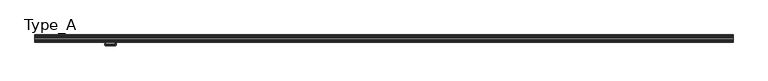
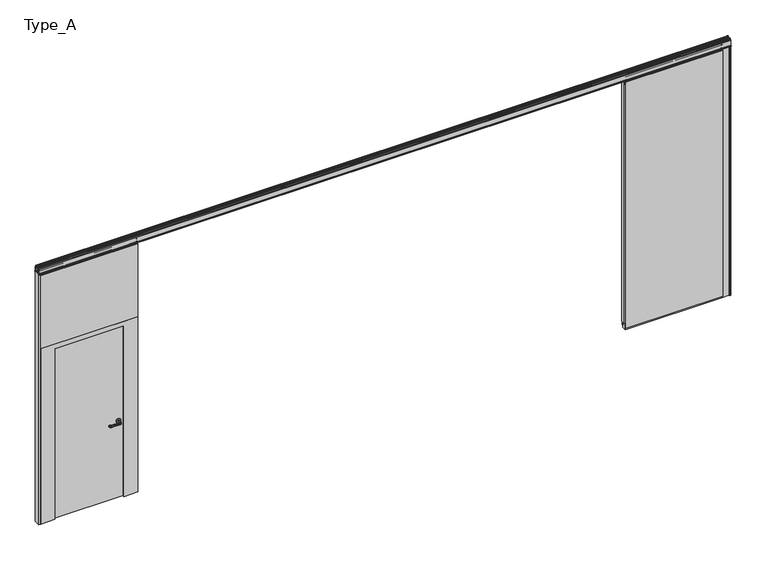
"""IFC4 building model written with IfcOpenShell, lengths in millimetres: proxy geometry, Planner Wall_ダブルガラス(Door) : Type_A."""

from ifc_helpers import new_model, si_unit, point, frame, frame_2d, origin, origin_with_axes, place, context, project, spatial, polyline, circle_curve, ellipse_curve, trimmed, segment, composite_curve, outline, extrude, faceted_brep, source, transform, mapped, element, save
from ifc_brep_helpers import plane_surface, cylinder_surface, revolved_surface, advanced_brep


def type_a_331d0887(model_context):
    return source(origin(), model_context, "Body", "SolidModel", [
        advanced_brep(
        [(907.9285714, -26.5, 910.0), (902.9285714, -26.5, 915.0), (902.9285714, -26.5, 925.0), (907.9285714, -26.5, 930.0), (911.9285714, -26.5, 930.0), (916.9285714, -26.5, 925.0), (916.9285714, -26.5, 915.0), (911.9285714, -26.5, 910.0), (911.9285714, -61.5, 910.0), (899.9285714, -73.5, 910.0), (799.9285714, -73.5, 910.0), (787.9285714, -61.5, 910.0), (787.9285714, -56.5, 910.0), (791.9285714, -56.5, 910.0), (791.9285714, -61.5, 910.0), (799.9285714, -69.5, 910.0), (899.9285714, -69.5, 910.0), (907.9285714, -61.5, 910.0), (916.9285714, -61.5, 915.0), (916.9285714, -61.5, 925.0), (911.9285714, -61.5, 930.0), (907.9285714, -61.5, 930.0), (899.9285714, -69.5, 930.0), (799.9285714, -69.5, 930.0), (791.9285714, -61.5, 930.0), (791.9285714, -56.5, 930.0), (787.9285714, -56.5, 930.0), (787.9285714, -61.5, 930.0), (799.9285714, -73.5, 930.0), (899.9285714, -73.5, 930.0), (902.9285714, -61.5, 925.0), (902.9285714, -61.5, 915.0), (899.9285714, -78.5, 915.0), (899.9285714, -78.5, 925.0), (899.9285714, -64.5, 925.0), (899.9285714, -64.5, 915.0), (799.9285714, -78.5, 915.0), (799.9285714, -78.5, 925.0), (799.9285714, -64.5, 925.0), (799.9285714, -64.5, 915.0), (782.9285714, -61.5, 915.0), (782.9285714, -61.5, 925.0), (796.9285714, -61.5, 925.0), (796.9285714, -61.5, 915.0), (782.9285714, -56.5, 915.0), (782.9285714, -56.5, 925.0), (796.9285714, -56.5, 925.0), (796.9285714, -56.5, 915.0)],
        [
            (0, 1, circle_curve(frame((907.9285714, -26.5, 915.0), z_axis=(0.0, 1.0, 0.0), x_axis=(-1.0, 0.0, 0.0)), 5.0)),
            (1, 2),
            (2, 3, circle_curve(frame((907.9285714, -26.5, 925.0), z_axis=(0.0, 1.0, 0.0), x_axis=(-1.0, 0.0, 0.0)), 5.0)),
            (3, 4),
            (4, 5, circle_curve(frame((911.9285714, -26.5, 925.0), z_axis=(0.0, 1.0, 0.0), x_axis=(-1.0, 0.0, 0.0)), 5.0)),
            (5, 6),
            (6, 7, circle_curve(frame((911.9285714, -26.5, 915.0), z_axis=(0.0, 1.0, 0.0), x_axis=(-1.0, 0.0, 0.0)), 5.0)),
            (7, 0),
            (7, 8),
            (8, 9, circle_curve(frame((899.9285714, -61.5, 910.0), z_axis=(0.0, 0.0, -1.0), x_axis=(1.0, 0.0, 0.0)), 12.0)),
            (9, 10),
            (10, 11, circle_curve(frame((799.9285714, -61.5, 910.0), z_axis=(0.0, 0.0, -1.0), x_axis=(0.0, -1.0, 0.0)), 12.0)),
            (11, 12),
            (12, 13),
            (13, 14),
            (14, 15, circle_curve(frame((799.9285714, -61.5, 910.0), z_axis=(0.0, 0.0, 1.0), x_axis=(0.0, -1.0, 0.0)), 8.0)),
            (15, 16),
            (16, 17, circle_curve(frame((899.9285714, -61.5, 910.0), z_axis=(0.0, 0.0, 1.0), x_axis=(1.0, 0.0, 0.0)), 8.0)),
            (17, 0),
            (6, 18),
            (18, 8, circle_curve(frame((911.9285714, -61.5, 915.0), z_axis=(0.0, 1.0, 0.0), x_axis=(-1.0, 0.0, 0.0)), 5.0)),
            (5, 19),
            (19, 18),
            (4, 20),
            (20, 19, circle_curve(frame((911.9285714, -61.5, 925.0), z_axis=(0.0, 1.0, 0.0), x_axis=(-1.0, 0.0, 0.0)), 5.0)),
            (3, 21),
            (21, 22, circle_curve(frame((899.9285714, -61.5, 930.0), z_axis=(0.0, 0.0, -1.0), x_axis=(1.0, 0.0, 0.0)), 8.0)),
            (22, 23),
            (23, 24, circle_curve(frame((799.9285714, -61.5, 930.0), z_axis=(0.0, 0.0, -1.0), x_axis=(0.0, -1.0, 0.0)), 8.0)),
            (24, 25),
            (25, 26),
            (26, 27),
            (27, 28, circle_curve(frame((799.9285714, -61.5, 930.0), z_axis=(0.0, 0.0, 1.0), x_axis=(0.0, -1.0, 0.0)), 12.0)),
            (28, 29),
            (29, 20, circle_curve(frame((899.9285714, -61.5, 930.0), z_axis=(0.0, 0.0, 1.0), x_axis=(1.0, 0.0, 0.0)), 12.0)),
            (2, 30),
            (30, 21, circle_curve(frame((907.9285714, -61.5, 925.0), z_axis=(0.0, 1.0, 0.0), x_axis=(-1.0, 0.0, 0.0)), 5.0)),
            (1, 31),
            (31, 30),
            (17, 31, circle_curve(frame((907.9285714, -61.5, 915.0), z_axis=(0.0, 1.0, 0.0), x_axis=(-1.0, 0.0, 0.0)), 5.0)),
            (32, 9, circle_curve(frame((899.9285714, -73.5, 915.0), z_axis=(1.0, 0.0, 0.0), x_axis=(0.0, 1.0, 0.0)), 5.0)),
            (18, 32, circle_curve(frame((899.9285714, -61.5, 915.0), z_axis=(0.0, 0.0, -1.0), x_axis=(1.0, 0.0, 0.0)), 17.0)),
            (33, 32),
            (19, 33, circle_curve(frame((899.9285714, -61.5, 925.0), z_axis=(0.0, 0.0, -1.0), x_axis=(1.0, 0.0, 0.0)), 17.0)),
            (29, 33, circle_curve(frame((899.9285714, -73.5, 925.0), z_axis=(1.0, 0.0, 0.0), x_axis=(0.0, 1.0, 0.0)), 5.0)),
            (34, 22, circle_curve(frame((899.9285714, -69.5, 925.0), z_axis=(1.0, 0.0, 0.0), x_axis=(0.0, 1.0, 0.0)), 5.0)),
            (30, 34, circle_curve(frame((899.9285714, -61.5, 925.0), z_axis=(0.0, 0.0, -1.0), x_axis=(1.0, 0.0, 0.0)), 3.0)),
            (35, 34),
            (31, 35, circle_curve(frame((899.9285714, -61.5, 915.0), z_axis=(0.0, 0.0, -1.0), x_axis=(1.0, 0.0, 0.0)), 3.0)),
            (16, 35, circle_curve(frame((899.9285714, -69.5, 915.0), z_axis=(1.0, 0.0, 0.0), x_axis=(0.0, 1.0, 0.0)), 5.0)),
            (32, 36),
            (36, 10, circle_curve(frame((799.9285714, -73.5, 915.0), z_axis=(1.0, 0.0, 0.0), x_axis=(0.0, 1.0, 0.0)), 5.0)),
            (33, 37),
            (37, 36),
            (28, 37, circle_curve(frame((799.9285714, -73.5, 925.0), z_axis=(1.0, 0.0, 0.0), x_axis=(0.0, 1.0, 0.0)), 5.0)),
            (34, 38),
            (38, 23, circle_curve(frame((799.9285714, -69.5, 925.0), z_axis=(1.0, 0.0, 0.0), x_axis=(0.0, 1.0, 0.0)), 5.0)),
            (35, 39),
            (39, 38),
            (15, 39, circle_curve(frame((799.9285714, -69.5, 915.0), z_axis=(1.0, 0.0, 0.0), x_axis=(0.0, 1.0, 0.0)), 5.0)),
            (40, 11, circle_curve(frame((787.9285714, -61.5, 915.0), z_axis=(0.0, -1.0, 0.0), x_axis=(1.0, 0.0, 0.0)), 5.0)),
            (36, 40, circle_curve(frame((799.9285714, -61.5, 915.0), z_axis=(0.0, 0.0, -1.0), x_axis=(0.0, -1.0, 0.0)), 17.0)),
            (41, 40),
            (37, 41, circle_curve(frame((799.9285714, -61.5, 925.0), z_axis=(0.0, 0.0, -1.0), x_axis=(0.0, -1.0, 0.0)), 17.0)),
            (27, 41, circle_curve(frame((787.9285714, -61.5, 925.0), z_axis=(0.0, -1.0, 0.0), x_axis=(1.0, 0.0, 0.0)), 5.0)),
            (42, 24, circle_curve(frame((791.9285714, -61.5, 925.0), z_axis=(0.0, -1.0, 0.0), x_axis=(1.0, 0.0, 0.0)), 5.0)),
            (38, 42, circle_curve(frame((799.9285714, -61.5, 925.0), z_axis=(0.0, 0.0, -1.0), x_axis=(0.0, -1.0, 0.0)), 3.0)),
            (43, 42),
            (39, 43, circle_curve(frame((799.9285714, -61.5, 915.0), z_axis=(0.0, 0.0, -1.0), x_axis=(0.0, -1.0, 0.0)), 3.0)),
            (14, 43, circle_curve(frame((791.9285714, -61.5, 915.0), z_axis=(0.0, -1.0, 0.0), x_axis=(1.0, 0.0, 0.0)), 5.0)),
            (12, 44, circle_curve(frame((787.9285714, -56.5, 915.0), z_axis=(0.0, 1.0, 0.0), x_axis=(1.0, 0.0, 0.0)), 5.0)),
            (44, 45),
            (45, 26, circle_curve(frame((787.9285714, -56.5, 925.0), z_axis=(0.0, 1.0, 0.0), x_axis=(1.0, 0.0, 0.0)), 5.0)),
            (25, 46, circle_curve(frame((791.9285714, -56.5, 925.0), z_axis=(0.0, 1.0, 0.0), x_axis=(1.0, 0.0, 0.0)), 5.0)),
            (46, 47),
            (47, 13, circle_curve(frame((791.9285714, -56.5, 915.0), z_axis=(0.0, 1.0, 0.0), x_axis=(1.0, 0.0, 0.0)), 5.0)),
            (40, 44),
            (41, 45),
            (42, 46),
            (43, 47),
        ],
        [
            plane_surface(frame((920.1266105, -26.5, 920.0), z_axis=(0.0, 1.0, 0.0), x_axis=(0.0, 0.0, -1.0))),
            plane_surface(frame((907.9285714, -26.5, 910.0), z_axis=(0.0, 0.0, -1.0), x_axis=(0.0, -1.0, 0.0))),
            cylinder_surface(frame((911.9285714, -26.5, 915.0), z_axis=(0.0, 1.0, 0.0), x_axis=(-1.0, 0.0, 0.0)), 5.0),
            plane_surface(frame((916.9285714, -26.5, 915.0), z_axis=(1.0, 0.0, 0.0), x_axis=(0.0, -1.0, 0.0))),
            cylinder_surface(frame((911.9285714, -26.5, 925.0), z_axis=(0.0, 1.0, 0.0), x_axis=(-1.0, 0.0, 0.0)), 5.0),
            plane_surface(frame((911.9285714, -26.5, 930.0), z_axis=(0.0, 0.0, 1.0), x_axis=(0.0, -1.0, 0.0))),
            cylinder_surface(frame((907.9285714, -26.5, 925.0), z_axis=(0.0, 1.0, 0.0), x_axis=(-1.0, 0.0, 0.0)), 5.0),
            plane_surface(frame((902.9285714, -26.5, 925.0), z_axis=(-1.0, 0.0, 0.0), x_axis=(0.0, -1.0, 0.0))),
            cylinder_surface(frame((907.9285714, -26.5, 915.0), z_axis=(0.0, 1.0, 0.0), x_axis=(-1.0, 0.0, 0.0)), 5.0),
            revolved_surface(trimmed(ellipse_curve(frame((911.9285714, -61.5, 915.0), z_axis=(0.0, -1.0, 0.0), x_axis=(-1.0, 0.0, 0.0)), 5.0, 5.0), [point((911.9285714, -61.5, 910.0))], [point((916.9285714, -61.5, 915.0))], True, "CARTESIAN"), (899.9285714, -61.5, 920.0), (0.0, 0.0, 1.0)),
            cylinder_surface(frame((899.9285714, -61.5, 920.0), z_axis=(0.0, 0.0, 1.0), x_axis=(1.0, 0.0, 0.0)), 17.0),
            revolved_surface(trimmed(ellipse_curve(frame((911.9285714, -61.5, 925.0), z_axis=(0.0, -1.0, 0.0), x_axis=(-1.0, 0.0, 0.0)), 5.0, 5.0), [point((916.9285714, -61.5, 925.0))], [point((911.9285714, -61.5, 930.0))], True, "CARTESIAN"), (899.9285714, -61.5, 920.0), (0.0, 0.0, 1.0)),
            revolved_surface(trimmed(ellipse_curve(frame((907.9285714, -61.5, 925.0), z_axis=(0.0, -1.0, 0.0), x_axis=(-1.0, 0.0, 0.0)), 5.0, 5.0), [point((907.9285714, -61.5, 930.0))], [point((902.9285714, -61.5, 925.0))], True, "CARTESIAN"), (899.9285714, -61.5, 920.0), (0.0, 0.0, 1.0)),
            revolved_surface(polyline([(902.9285714, -61.5, 925.0), (902.9285714, -61.5, 915.0)]), (899.9285714, -61.5, 920.0), (0.0, 0.0, 1.0)),
            revolved_surface(trimmed(ellipse_curve(frame((907.9285714, -61.5, 915.0), z_axis=(0.0, -1.0, 0.0), x_axis=(-1.0, 0.0, 0.0)), 5.0, 5.0), [point((902.9285714, -61.5, 915.0))], [point((907.9285714, -61.5, 910.0))], True, "CARTESIAN"), (899.9285714, -61.5, 920.0), (0.0, 0.0, 1.0)),
            cylinder_surface(frame((899.9285714, -73.5, 915.0), z_axis=(1.0, 0.0, 0.0), x_axis=(0.0, 1.0, 0.0)), 5.0),
            plane_surface(frame((899.9285714, -78.5, 915.0), z_axis=(0.0, -1.0, 0.0), x_axis=(-1.0, 0.0, 0.0))),
            cylinder_surface(frame((899.9285714, -73.5, 925.0), z_axis=(1.0, 0.0, 0.0), x_axis=(0.0, 1.0, 0.0)), 5.0),
            cylinder_surface(frame((899.9285714, -69.5, 925.0), z_axis=(1.0, 0.0, 0.0), x_axis=(0.0, 1.0, 0.0)), 5.0),
            plane_surface(frame((899.9285714, -64.5, 925.0), z_axis=(0.0, 1.0, 0.0), x_axis=(-1.0, 0.0, 0.0))),
            cylinder_surface(frame((899.9285714, -69.5, 915.0), z_axis=(1.0, 0.0, 0.0), x_axis=(0.0, 1.0, 0.0)), 5.0),
            revolved_surface(trimmed(ellipse_curve(frame((799.9285714, -73.5, 915.0), z_axis=(-1.0, 0.0, 0.0), x_axis=(0.0, 1.0, 0.0)), 5.0, 5.0), [point((799.9285714, -73.5, 910.0))], [point((799.9285714, -78.5, 915.0))], True, "CARTESIAN"), (799.9285714, -61.5, 920.0), (0.0, 0.0, 1.0)),
            cylinder_surface(frame((799.9285714, -61.5, 920.0), z_axis=(0.0, 0.0, 1.0), x_axis=(0.0, -1.0, 0.0)), 17.0),
            revolved_surface(trimmed(ellipse_curve(frame((799.9285714, -73.5, 925.0), z_axis=(-1.0, 0.0, 0.0), x_axis=(0.0, 1.0, 0.0)), 5.0, 5.0), [point((799.9285714, -78.5, 925.0))], [point((799.9285714, -73.5, 930.0))], True, "CARTESIAN"), (799.9285714, -61.5, 920.0), (0.0, 0.0, 1.0)),
            revolved_surface(trimmed(ellipse_curve(frame((799.9285714, -69.5, 925.0), z_axis=(-1.0, 0.0, 0.0), x_axis=(0.0, 1.0, 0.0)), 5.0, 5.0), [point((799.9285714, -69.5, 930.0))], [point((799.9285714, -64.5, 925.0))], True, "CARTESIAN"), (799.9285714, -61.5, 920.0), (0.0, 0.0, 1.0)),
            revolved_surface(polyline([(799.9285714, -64.5, 925.0), (799.9285714, -64.5, 915.0)]), (799.9285714, -61.5, 920.0), (0.0, 0.0, 1.0)),
            revolved_surface(trimmed(ellipse_curve(frame((799.9285714, -69.5, 915.0), z_axis=(-1.0, 0.0, 0.0), x_axis=(0.0, 1.0, 0.0)), 5.0, 5.0), [point((799.9285714, -64.5, 915.0))], [point((799.9285714, -69.5, 910.0))], True, "CARTESIAN"), (799.9285714, -61.5, 920.0), (0.0, 0.0, 1.0)),
            plane_surface(frame((800.1266105, -56.5, 920.0), z_axis=(0.0, 1.0, 0.0), x_axis=(0.0, 0.0, 1.0))),
            cylinder_surface(frame((787.9285714, -61.5, 915.0), z_axis=(0.0, -1.0, 0.0), x_axis=(1.0, 0.0, 0.0)), 5.0),
            plane_surface(frame((782.9285714, -61.5, 915.0), z_axis=(-1.0, 0.0, 0.0), x_axis=(0.0, 1.0, 0.0))),
            cylinder_surface(frame((787.9285714, -61.5, 925.0), z_axis=(0.0, -1.0, 0.0), x_axis=(1.0, 0.0, 0.0)), 5.0),
            cylinder_surface(frame((791.9285714, -61.5, 925.0), z_axis=(0.0, -1.0, 0.0), x_axis=(1.0, 0.0, 0.0)), 5.0),
            plane_surface(frame((796.9285714, -61.5, 925.0), z_axis=(1.0, 0.0, 0.0), x_axis=(0.0, 1.0, 0.0))),
            cylinder_surface(frame((791.9285714, -61.5, 915.0), z_axis=(0.0, -1.0, 0.0), x_axis=(1.0, 0.0, 0.0)), 5.0),
        ],
        [
            (0, [[1, 2, 3, 4, 5, 6, 7, 8]]),
            (1, [[9, 10, 11, 12, 13, 14, 15, 16, 17, 18, 19, -8]]),
            (2, [[20, 21, -9, -7]]),
            (3, [[22, 23, -20, -6]]),
            (4, [[24, 25, -22, -5]]),
            (5, [[26, 27, 28, 29, 30, 31, 32, 33, 34, 35, -24, -4]]),
            (6, [[36, 37, -26, -3]]),
            (7, [[38, 39, -36, -2]]),
            (8, [[-19, 40, -38, -1]]),
            (9, [[41, -10, -21, 42]]),
            (10, [[43, -42, -23, 44]]),
            (11, [[45, -44, -25, -35]]),
            (12, [[46, -27, -37, 47]]),
            (13, [[48, -47, -39, 49]]),
            (14, [[50, -49, -40, -18]]),
            (15, [[51, 52, -11, -41]]),
            (16, [[53, 54, -51, -43]]),
            (17, [[-34, 55, -53, -45]]),
            (18, [[56, 57, -28, -46]]),
            (19, [[58, 59, -56, -48]]),
            (20, [[-17, 60, -58, -50]]),
            (21, [[61, -12, -52, 62]]),
            (22, [[63, -62, -54, 64]]),
            (23, [[65, -64, -55, -33]]),
            (24, [[66, -29, -57, 67]]),
            (25, [[68, -67, -59, 69]]),
            (26, [[70, -69, -60, -16]]),
            (27, [[-14, 71, 72, 73, -31, 74, 75, 76]]),
            (28, [[77, -71, -13, -61]]),
            (29, [[78, -72, -77, -63]]),
            (30, [[-32, -73, -78, -65]]),
            (31, [[79, -74, -30, -66]]),
            (32, [[80, -75, -79, -68]]),
            (33, [[-15, -76, -80, -70]]),
        ],
    ),
        extrude(outline(composite_curve([segment(trimmed(circle_curve(frame_2d((920.0, 909.9285714)), 25.0), [point((920.0, 934.9285714))], [point((920.0, 884.9285714))], False, "CARTESIAN"), True, "CONTINUOUS"), segment(trimmed(circle_curve(frame_2d((920.0, 909.9285714)), 25.0), [point((920.0, 884.9285714))], [point((920.0, 934.9285714))], False, "CARTESIAN"), True, "CONTINUOUS")], self_intersect=False)), frame((0.0, 23.5, 0.0), z_axis=(0.0, 1.0, 0.0), x_axis=(0.0, 0.0, 1.0)), (0.0, 0.0, 1.0), 10.0),
        extrude(outline(composite_curve([segment(trimmed(circle_curve(frame_2d((920.0, 909.9285714)), 25.0), [point((920.0, 934.9285714))], [point((920.0, 884.9285714))], False, "CARTESIAN"), True, "CONTINUOUS"), segment(trimmed(circle_curve(frame_2d((920.0, 909.9285714)), 25.0), [point((920.0, 884.9285714))], [point((920.0, 934.9285714))], False, "CARTESIAN"), True, "CONTINUOUS")], self_intersect=False)), frame((0.0, -26.5, 0.0), z_axis=(0.0, 1.0, 0.0), x_axis=(0.0, 0.0, 1.0)), (0.0, 0.0, 1.0), 10.0),
        extrude(outline(polyline([(973.9285714, -16.5), (166.5, -16.5), (166.5, 23.5), (973.9285714, 23.5), (973.9285714, -16.5)])), origin_with_axes(), (0.0, 0.0, 1.0), 2062.0),
        faceted_brep([(21.5, -35.0, 0.0), (21.5, 35.0, 0.0), (154.0, 35.0, 0.0), (154.0, 26.0, 0.0), (162.5, 26.0, 0.0), (162.5, -20.5, 0.0), (177.5, -20.5, 0.0), (177.5, -35.0, 0.0), (987.4285714, 35.0, 0.0), (1119.9285714, 35.0, 0.0), (1119.9285714, 25.0, 0.0), (1114.4285714, 25.0, 0.0), (1114.4285714, -25.0, 0.0), (1119.9285714, -25.0, 0.0), (1119.9285714, -35.0, 0.0), (963.9285714, -35.0, 0.0), (963.9285714, -20.5, 0.0), (978.9285714, -20.5, 0.0), (978.9285714, 26.0, 0.0), (987.4285714, 26.0, 0.0), (21.5, 35.0, 2100.0), (21.5, -35.0, 2100.0), (1119.9285714, -35.0, 2100.0), (1119.9285714, -25.0, 2100.0), (1114.4285714, -25.0, 2100.0), (1114.4285714, 25.0, 2100.0), (1119.9285714, 25.0, 2100.0), (1119.9285714, 35.0, 2100.0), (177.5, -20.5, 2100.0), (162.5, -20.5, 2100.0), (162.5, 25.0, 2100.0), (978.9285714, 25.0, 2100.0), (978.9285714, -20.5, 2100.0), (963.9285714, -20.5, 2100.0), (963.9285714, -25.0, 2100.0), (177.5, -25.0, 2100.0), (987.4285714, 35.0, 2066.0), (154.0, 35.0, 2066.0), (154.0, 26.0, 2066.0), (162.5, 26.0, 2066.0), (162.5, 25.0, 2066.0), (177.5, -25.0, 2046.0), (177.5, -35.0, 2046.0), (963.9285714, -35.0, 2046.0), (963.9285714, -25.0, 2046.0), (978.9285714, 25.0, 2066.0), (978.9285714, 26.0, 2066.0), (987.4285714, 26.0, 2066.0)], [[[0, 1, 2, 3, 4, 5, 6, 7]], [[8, 9, 10, 11, 12, 13, 14, 15, 16, 17, 18, 19]], [[20, 21, 22, 23, 24, 25, 26, 27], [28, 29, 30, 31, 32, 33, 34, 35]], [[1, 0, 21, 20]], [[2, 1, 20, 27, 9, 8, 36, 37]], [[3, 2, 37, 38]], [[4, 3, 38, 39]], [[5, 4, 39, 40, 30, 29]], [[6, 5, 29, 28]], [[7, 6, 28, 35, 41, 42]], [[0, 7, 42, 43, 15, 14, 22, 21]], [[10, 9, 27, 26]], [[11, 10, 26, 25]], [[12, 11, 25, 24]], [[13, 12, 24, 23]], [[14, 13, 23, 22]], [[16, 15, 43, 44, 34, 33]], [[17, 16, 33, 32]], [[18, 17, 32, 31, 45, 46]], [[19, 18, 46, 47]], [[8, 19, 47, 36]], [[43, 42, 41, 44]], [[35, 34, 44, 41]], [[31, 30, 40, 45]], [[37, 36, 47, 46, 45, 40, 39, 38]]]),
        extrude(outline(composite_curve([segment(polyline([(23.5, 3050.1000003), (26.5, 3047.1000003), (26.5, 3032.6)]), True, "CONTINUOUS"), segment(trimmed(circle_curve(frame_2d((25.0, 3032.6)), 1.5), [point((26.5, 3032.6))], [point((25.0, 3031.1))], False, "CARTESIAN"), True, "CONTINUOUS"), segment(polyline([(25.0, 3031.1), (9.0, 3031.1), (9.0, 3019.1000003), (23.5, 3019.1000003), (26.5, 3016.1000003), (26.5, 3001.5)]), True, "CONTINUOUS"), segment(trimmed(circle_curve(frame_2d((25.0, 3001.5)), 1.5), [point((26.5, 3001.5))], [point((25.0, 3000.0))], False, "CARTESIAN"), True, "CONTINUOUS"), segment(polyline([(25.0, 3000.0), (7.5, 3000.0), (7.5, 2994.5), (25.0, 2994.5), (25.0, 2935.0), (-25.0, 2935.0), (-25.0, 2994.5), (-7.5, 2994.5), (-7.5, 3000.0), (-25.0, 3000.0)]), True, "CONTINUOUS"), segment(trimmed(circle_curve(frame_2d((-25.0, 3001.5)), 1.5), [point((-25.0, 3000.0))], [point((-26.5, 3001.5))], False, "CARTESIAN"), True, "CONTINUOUS"), segment(polyline([(-26.5, 3001.5), (-26.5, 3016.1000003), (-23.5, 3019.1000003), (-9.0, 3019.1000003), (-9.0, 3031.1), (-25.0, 3031.1)]), True, "CONTINUOUS"), segment(trimmed(circle_curve(frame_2d((-25.0, 3032.6)), 1.5), [point((-25.0, 3031.1))], [point((-26.5, 3032.6))], False, "CARTESIAN"), True, "CONTINUOUS"), segment(polyline([(-26.5, 3032.6), (-26.5, 3047.1000003), (-23.5, 3050.1000003), (23.5, 3050.1000003)]), True, "CONTINUOUS")], self_intersect=False)), frame((21.5, 0.0, 0.0), z_axis=(1.0, 0.0, 0.0), x_axis=(0.0, 1.0, 0.0)), (0.0, 0.0, 1.0), 1098.4285714),
        extrude(outline(polyline([(1119.9285714, 24.9), (21.5, 24.9), (21.5, 35.0), (1119.9285714, 35.0), (1119.9285714, 24.9)])), frame((0.0, 0.0, 2100.0), z_axis=(0.0, 0.0, 1.0), x_axis=(1.0, 0.0, 0.0)), (0.0, 0.0, 1.0), 875.0),
        extrude(outline(polyline([(1119.9285714, -35.0), (21.5, -35.0), (21.5, -24.9), (1119.9285714, -24.9), (1119.9285714, -35.0)])), frame((0.0, 0.0, 2100.0), z_axis=(0.0, 0.0, 1.0), x_axis=(1.0, 0.0, 0.0)), (0.0, 0.0, 1.0), 875.0),
        extrude(outline(polyline([(8.0, -25.0), (8.0, 25.0), (21.5, 25.0), (21.5, -25.0), (8.0, -25.0)])), frame((0.0, 0.0, 53.0), z_axis=(0.0, 0.0, 1.0), x_axis=(1.0, 0.0, 0.0)), (0.0, 0.0, 1.0), 2869.0),
        extrude(outline(polyline([(6660.0714286, -25.0), (6660.0714286, 25.0), (7753.0, 25.0), (7753.0, -25.0), (6660.0714286, -25.0)])), origin_with_axes(), (0.0, 0.0, 1.0), 65.0),
        extrude(outline(polyline([(7753.0, -19.5), (7753.0, 19.5), (7835.5, 19.5), (7835.5, 25.0), (7842.0, 25.0), (7842.0, -25.0), (7835.5, -25.0), (7835.5, -19.5), (7753.0, -19.5)])), origin_with_axes(), (0.0, 0.0, 1.0), 2994.0),
        extrude(outline(composite_curve([segment(polyline([(23.5, 3050.1000003), (26.5, 3047.1000003), (26.5, 3032.6)]), True, "CONTINUOUS"), segment(trimmed(circle_curve(frame_2d((25.0, 3032.6)), 1.5), [point((26.5, 3032.6))], [point((25.0, 3031.1))], False, "CARTESIAN"), True, "CONTINUOUS"), segment(polyline([(25.0, 3031.1), (9.0, 3031.1), (9.0, 3019.1000003), (23.5, 3019.1000003), (26.5, 3016.1000003), (26.5, 3001.5)]), True, "CONTINUOUS"), segment(trimmed(circle_curve(frame_2d((25.0, 3001.5)), 1.5), [point((26.5, 3001.5))], [point((25.0, 3000.0))], False, "CARTESIAN"), True, "CONTINUOUS"), segment(polyline([(25.0, 3000.0), (7.5, 3000.0), (7.5, 2994.5), (25.0, 2994.5), (25.0, 2935.0), (-25.0, 2935.0), (-25.0, 2994.5), (-7.5, 2994.5), (-7.5, 3000.0), (-25.0, 3000.0)]), True, "CONTINUOUS"), segment(trimmed(circle_curve(frame_2d((-25.0, 3001.5)), 1.5), [point((-25.0, 3000.0))], [point((-26.5, 3001.5))], False, "CARTESIAN"), True, "CONTINUOUS"), segment(polyline([(-26.5, 3001.5), (-26.5, 3016.1000003), (-23.5, 3019.1000003), (-9.0, 3019.1000003), (-9.0, 3031.1), (-25.0, 3031.1)]), True, "CONTINUOUS"), segment(trimmed(circle_curve(frame_2d((-25.0, 3032.6)), 1.5), [point((-25.0, 3031.1))], [point((-26.5, 3032.6))], False, "CARTESIAN"), True, "CONTINUOUS"), segment(polyline([(-26.5, 3032.6), (-26.5, 3047.1000003), (-23.5, 3050.1000003), (23.5, 3050.1000003)]), True, "CONTINUOUS")], self_intersect=False)), frame((6660.0714286, 0.0, 0.0), z_axis=(1.0, 0.0, 0.0), x_axis=(0.0, 1.0, 0.0)), (0.0, 0.0, 1.0), 1098.4285714),
        extrude(outline(polyline([(7758.5, 24.9), (6660.0714286, 24.9), (6660.0714286, 35.0), (7758.5, 35.0), (7758.5, 24.9)])), frame((0.0, 0.0, 25.0), z_axis=(0.0, 0.0, 1.0), x_axis=(1.0, 0.0, 0.0)), (0.0, 0.0, 1.0), 2950.0),
        extrude(outline(polyline([(7758.5, -35.0), (6660.0714286, -35.0), (6660.0714286, -24.9), (7758.5, -24.9), (7758.5, -35.0)])), frame((0.0, 0.0, 25.0), z_axis=(0.0, 0.0, 1.0), x_axis=(1.0, 0.0, 0.0)), (0.0, 0.0, 1.0), 2950.0),
        extrude(outline(polyline([(6646.5714286, -25.0), (6646.5714286, 25.0), (6660.0714286, 25.0), (6660.0714286, -25.0), (6646.5714286, -25.0)])), frame((0.0, 0.0, 78.0), z_axis=(0.0, 0.0, 1.0), x_axis=(1.0, 0.0, 0.0)), (0.0, 0.0, 1.0), 2897.0),
        extrude(outline(polyline([(0.0, -35.0), (0.0, 35.0), (13.5, 35.0), (13.5, 25.0), (8.0, 25.0), (8.0, -25.0), (13.5, -25.0), (13.5, -35.0), (0.0, -35.0)])), origin_with_axes(), (0.0, 0.0, 1.0), 2994.0),
        extrude(outline(composite_curve([segment(trimmed(circle_curve(frame_2d((-26.5, 3056.0)), 5.0), [point((-31.5, 3056.0))], [point((-26.1165175, 3060.9852724))], False, "CARTESIAN"), True, "CONTINUOUS"), segment(polyline([(-26.1165175, 3060.9852724), (-24.5, 3060.9852724), (-24.5, 3075.0)]), True, "CONTINUOUS"), segment(trimmed(circle_curve(frame_2d((-21.5, 3075.0)), 3.0), [point((-24.5, 3075.0))], [point((-21.5, 3078.0))], False, "CARTESIAN"), True, "CONTINUOUS"), segment(polyline([(-21.5, 3078.0), (-14.0, 3078.0)]), True, "CONTINUOUS"), segment(trimmed(circle_curve(frame_2d((-14.0, 3076.5)), 1.5), [point((-14.0, 3078.0))], [point((-12.5, 3076.5))], False, "CARTESIAN"), True, "CONTINUOUS"), segment(polyline([(-12.5, 3076.5), (-12.5, 3074.5)]), True, "CONTINUOUS"), segment(trimmed(circle_curve(frame_2d((-13.0, 3074.5)), 0.5), [point((-12.5, 3074.5))], [point((-13.0, 3074.0))], False, "CARTESIAN"), True, "CONTINUOUS"), segment(polyline([(-13.0, 3074.0), (-19.0, 3074.0)]), True, "CONTINUOUS"), segment(trimmed(circle_curve(frame_2d((-19.0, 3072.5)), 1.5), [point((-19.0, 3074.0))], [point((-20.5, 3072.5))], True, "CARTESIAN"), True, "CONTINUOUS"), segment(polyline([(-20.5, 3072.5), (-20.5, 3062.5)]), True, "CONTINUOUS"), segment(trimmed(circle_curve(frame_2d((-19.0, 3062.5)), 1.5), [point((-20.5, 3062.5))], [point((-19.0, 3061.0))], True, "CARTESIAN"), True, "CONTINUOUS"), segment(polyline([(-19.0, 3061.0), (19.0, 3061.0)]), True, "CONTINUOUS"), segment(trimmed(circle_curve(frame_2d((19.0, 3062.5)), 1.5), [point((19.0, 3061.0))], [point((20.5, 3062.5))], True, "CARTESIAN"), True, "CONTINUOUS"), segment(polyline([(20.5, 3062.5), (20.5, 3072.5)]), True, "CONTINUOUS"), segment(trimmed(circle_curve(frame_2d((19.0, 3072.5)), 1.5), [point((20.5, 3072.5))], [point((19.0, 3074.0))], True, "CARTESIAN"), True, "CONTINUOUS"), segment(polyline([(19.0, 3074.0), (13.0, 3074.0)]), True, "CONTINUOUS"), segment(trimmed(circle_curve(frame_2d((13.0, 3074.5)), 0.5), [point((13.0, 3074.0))], [point((12.5, 3074.5))], False, "CARTESIAN"), True, "CONTINUOUS"), segment(polyline([(12.5, 3074.5), (12.5, 3076.5)]), True, "CONTINUOUS"), segment(trimmed(circle_curve(frame_2d((14.0, 3076.5)), 1.5), [point((12.5, 3076.5))], [point((14.0, 3078.0))], False, "CARTESIAN"), True, "CONTINUOUS"), segment(polyline([(14.0, 3078.0), (21.5, 3078.0)]), True, "CONTINUOUS"), segment(trimmed(circle_curve(frame_2d((21.5, 3075.0)), 3.0), [point((21.5, 3078.0))], [point((24.5, 3075.0))], False, "CARTESIAN"), True, "CONTINUOUS"), segment(polyline([(24.5, 3075.0), (24.5, 3060.9852724), (26.1165175, 3060.9852724)]), True, "CONTINUOUS"), segment(trimmed(circle_curve(frame_2d((26.5, 3056.0)), 5.0), [point((26.1165175, 3060.9852724))], [point((31.5, 3056.0))], False, "CARTESIAN"), True, "CONTINUOUS"), segment(polyline([(31.5, 3056.0), (31.5, 3000.0), (42.5, 3000.0), (42.5, 2994.0), (11.0, 2994.0), (11.0, 3000.0), (26.9, 3000.0), (26.9, 3007.0786797), (27.9, 3009.3213203), (27.9, 3052.0)]), True, "CONTINUOUS"), segment(trimmed(circle_curve(frame_2d((22.9, 3052.0)), 5.0), [point((27.9, 3052.0))], [point((22.9, 3057.0))], True, "CARTESIAN"), True, "CONTINUOUS"), segment(polyline([(22.9, 3057.0), (-22.9, 3057.0)]), True, "CONTINUOUS"), segment(trimmed(circle_curve(frame_2d((-22.9, 3052.0)), 5.0), [point((-22.9, 3057.0))], [point((-27.9, 3052.0))], True, "CARTESIAN"), True, "CONTINUOUS"), segment(polyline([(-27.9, 3052.0), (-27.9, 3009.3213203), (-26.9, 3007.0786797), (-26.9, 3000.0), (-11.0, 3000.0), (-11.0, 2994.0), (-42.5, 2994.0), (-42.5, 3000.0), (-31.5, 3000.0), (-31.5, 3056.0)]), True, "CONTINUOUS")], self_intersect=False)), frame((0.0, 0.0, 0.0), z_axis=(1.0, 0.0, 0.0), x_axis=(0.0, 1.0, 0.0)), (0.0, 0.0, 1.0), 7850.0),
        extrude(outline(polyline([(7850.0, -35.0), (7836.5, -35.0), (7836.5, -25.0), (7842.0, -25.0), (7842.0, 25.0), (7836.5, 25.0), (7836.5, 35.0), (7850.0, 35.0), (7850.0, -35.0)])), origin_with_axes(), (0.0, 0.0, 1.0), 2994.0),
        extrude(outline(polyline([(0.0, -35.0), (0.0, 35.0), (13.5, 35.0), (13.5, 25.0), (8.0, 25.0), (8.0, -25.0), (13.5, -25.0), (13.5, -35.0), (0.0, -35.0)])), origin_with_axes(), (0.0, 0.0, 1.0), 2994.0),
    ])


if __name__ == "__main__":
    model = new_model("IFC4")
    model_context = context("Model", 3, world=origin())
    ifc_project = project(units=[si_unit("LENGTHUNIT", "METRE", prefix="MILLI")], contexts=[model_context])
    site = spatial("IfcSite", under=ifc_project)
    building = spatial("IfcBuilding", under=site)
    placement = place(None, origin())
    type_a_shape = type_a_331d0887(model_context)
    element("IfcBuildingElementProxy", 1, Name="Planner Wall_ダブルガラス(Door) : Type_A", ObjectType="Planner Wall_ダブルガラス(Door) : Type_A", at=placement, inside=building, context=model_context, shape_type="MappedRepresentation", body=[
        mapped(type_a_shape, transform((0.0, 0.0, 0.0), x_axis=(1.0, 0.0, 0.0), y_axis=(0.0, 1.0, 0.0), z_axis=(0.0, 0.0, 1.0))),
    ])
    save(model, "model.ifc")
